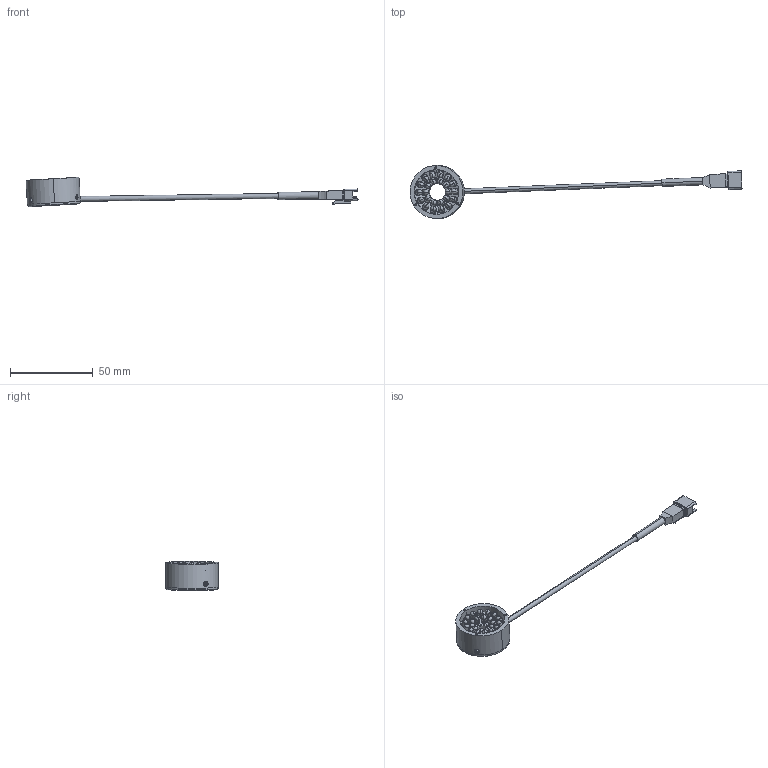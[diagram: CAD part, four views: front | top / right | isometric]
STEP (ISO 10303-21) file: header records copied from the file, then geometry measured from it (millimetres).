
FILE_DESCRIPTION(('STEP AP214'),'1');
FILE_NAME('VBA-3210_DRAWING_3D.step','2023-09-15T07:39:52',(' '),(' '),'Spatial InterOp 3D',' ',' ');
FILE_SCHEMA(('AUTOMOTIVE_DESIGN { 1 0 10303 214 1 1 1 1 }'));
Length unit declared in the file: millimetre
Products named in the file (5): Base; PCB; Cover; cable
Assembly tree (4 placements, depth 2):
  (unnamed)
    Base
    PCB
    Cover
    cable
Bounding box: 200.2 x 32.02 x 17.73 mm (x, y, z)
Volume: 9708.8 mm3; surface area: 11126.5 mm2
Topology: 5 solids, 5 shells, 455 faces, 1172 edges, 719 vertices
Faces by surface type: cylinder 186, plane 167, sphere 48, cone 40, bspline 10, torus 4
Entity records: 21208 total; most frequent: CARTESIAN_POINT 6657, DIRECTION 2270, ORIENTED_EDGE 2208, EDGE_CURVE 1104, AXIS2_PLACEMENT_3D 844, VERTEX_POINT 719, LINE 582, VECTOR 582
